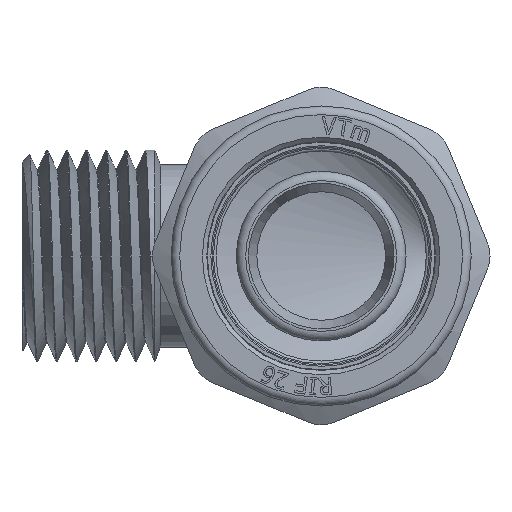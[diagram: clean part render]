
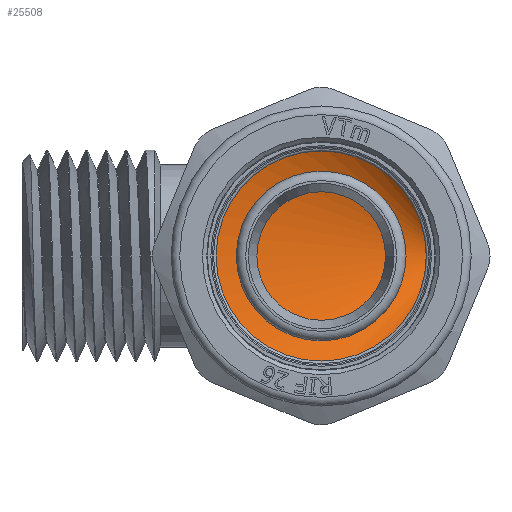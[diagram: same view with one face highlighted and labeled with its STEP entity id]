
A CAD part, left-side view. The second image highlights one B-rep face of the part: STEP entity #25508.
In plain terms, the highlighted cylindrical face has radius 15.25 mm (diameter 30.5 mm), a full revolution.
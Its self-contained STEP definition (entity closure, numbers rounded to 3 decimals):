
#1419=FACE_OUTER_BOUND('',#2860,.T.);
#2860=EDGE_LOOP('',(#17108,#17109,#17110,#17111,#17112,#17113,#17114,#17115));
#4420=CIRCLE('',#26972,15.25);
#4421=CIRCLE('',#26973,15.25);
#4422=CIRCLE('',#26974,15.25);
#5021=B_SPLINE_CURVE_WITH_KNOTS('',3,(#32531,#32532,#32533,#32534,#32535,
#32536,#32537,#32538,#32539,#32540,#32541,#32542,#32543,#32544,#32545,#32546,
#32547,#32548,#32549,#32550,#32551,#32552,#32553,#32554,#32555,#32556,#32557,
#32558,#32559,#32560,#32561,#32562,#32563,#32564),.UNSPECIFIED.,.F.,.F.,
(4,3,3,3,3,3,3,3,3,3,3,4),(1.209,1.479,1.972,
2.465,2.958,3.451,3.944,4.437,
4.93,5.424,5.917,6.096),
 .UNSPECIFIED.);
#5022=B_SPLINE_CURVE_WITH_KNOTS('',3,(#32567,#32568,#32569,#32570,#32571,
#32572,#32573,#32574,#32575,#32576),.UNSPECIFIED.,.F.,.F.,(4,3,3,4),(-1.271,
-0.973,-0.486,-0.148),.UNSPECIFIED.);
#6756=LINE('',#32529,#8492);
#6757=LINE('',#32578,#8493);
#8492=VECTOR('',#28247,15.25);
#8493=VECTOR('',#28250,15.25);
#10228=VERTEX_POINT('',#32527);
#10229=VERTEX_POINT('',#32528);
#10230=VERTEX_POINT('',#32530);
#10231=VERTEX_POINT('',#32565);
#10232=VERTEX_POINT('',#32577);
#10233=VERTEX_POINT('',#32579);
#13004=EDGE_CURVE('',#10228,#10229,#6756,.T.);
#13005=EDGE_CURVE('',#10230,#10228,#5021,.T.);
#13006=EDGE_CURVE('',#10231,#10230,#4420,.T.);
#13007=EDGE_CURVE('',#10229,#10231,#5022,.T.);
#13008=EDGE_CURVE('',#10229,#10232,#6757,.T.);
#13009=EDGE_CURVE('',#10233,#10232,#4421,.T.);
#13010=EDGE_CURVE('',#10232,#10233,#4422,.T.);
#17108=ORIENTED_EDGE('',*,*,#13004,.F.);
#17109=ORIENTED_EDGE('',*,*,#13005,.F.);
#17110=ORIENTED_EDGE('',*,*,#13006,.F.);
#17111=ORIENTED_EDGE('',*,*,#13007,.F.);
#17112=ORIENTED_EDGE('',*,*,#13008,.T.);
#17113=ORIENTED_EDGE('',*,*,#13009,.F.);
#17114=ORIENTED_EDGE('',*,*,#13010,.F.);
#17115=ORIENTED_EDGE('',*,*,#13008,.F.);
#25316=CYLINDRICAL_SURFACE('',#26971,15.25);
#25508=ADVANCED_FACE('',(#1419),#25316,.F.);
#26971=AXIS2_PLACEMENT_3D('',#32526,#28245,#28246);
#26972=AXIS2_PLACEMENT_3D('',#32566,#28248,#28249);
#26973=AXIS2_PLACEMENT_3D('',#32580,#28251,#28252);
#26974=AXIS2_PLACEMENT_3D('',#32581,#28253,#28254);
#28245=DIRECTION('center_axis',(1.,0.,0.));
#28246=DIRECTION('ref_axis',(0.,1.,0.));
#28247=DIRECTION('',(-1.,0.,0.));
#28248=DIRECTION('center_axis',(-1.,0.,0.));
#28249=DIRECTION('ref_axis',(0.,1.,0.));
#28250=DIRECTION('',(-1.,0.,0.));
#28251=DIRECTION('center_axis',(1.,0.,0.));
#28252=DIRECTION('ref_axis',(0.,0.,1.));
#28253=DIRECTION('center_axis',(1.,0.,0.));
#28254=DIRECTION('ref_axis',(0.,0.,1.));
#32526=CARTESIAN_POINT('Origin',(-31.82,0.,
0.));
#32527=CARTESIAN_POINT('',(-27.611,-15.25,0.));
#32528=CARTESIAN_POINT('',(-28.989,-15.25,0.));
#32529=CARTESIAN_POINT('',(-31.82,-15.25,0.));
#32530=CARTESIAN_POINT('',(-29.4,-2.658,-15.017));
#32531=CARTESIAN_POINT('Ctrl Pts',(-29.4,-2.658,-15.015));
#32532=CARTESIAN_POINT('Ctrl Pts',(-29.367,-1.303,
-15.255));
#32533=CARTESIAN_POINT('Ctrl Pts',(-29.334,0.084,
-15.313));
#32534=CARTESIAN_POINT('Ctrl Pts',(-29.301,1.453,-15.182));
#32535=CARTESIAN_POINT('Ctrl Pts',(-29.241,3.947,-14.943));
#32536=CARTESIAN_POINT('Ctrl Pts',(-29.181,6.382,-14.077));
#32537=CARTESIAN_POINT('Ctrl Pts',(-29.12,8.466,-12.686));
#32538=CARTESIAN_POINT('Ctrl Pts',(-29.06,10.55,-11.295));
#32539=CARTESIAN_POINT('Ctrl Pts',(-29.,12.284,-9.38));
#32540=CARTESIAN_POINT('Ctrl Pts',(-28.94,13.462,-7.168));
#32541=CARTESIAN_POINT('Ctrl Pts',(-28.88,14.639,-4.956));
#32542=CARTESIAN_POINT('Ctrl Pts',(-28.82,15.261,-2.448));
#32543=CARTESIAN_POINT('Ctrl Pts',(-28.759,15.251,0.057));
#32544=CARTESIAN_POINT('Ctrl Pts',(-28.699,15.242,2.563));
#32545=CARTESIAN_POINT('Ctrl Pts',(-28.639,14.602,5.066));
#32546=CARTESIAN_POINT('Ctrl Pts',(-28.579,13.407,7.269));
#32547=CARTESIAN_POINT('Ctrl Pts',(-28.519,12.213,9.472));
#32548=CARTESIAN_POINT('Ctrl Pts',(-28.459,10.465,11.374));
#32549=CARTESIAN_POINT('Ctrl Pts',(-28.399,8.37,12.749));
#32550=CARTESIAN_POINT('Ctrl Pts',(-28.338,6.275,14.124));
#32551=CARTESIAN_POINT('Ctrl Pts',(-28.278,3.835,14.972));
#32552=CARTESIAN_POINT('Ctrl Pts',(-28.218,1.339,15.192));
#32553=CARTESIAN_POINT('Ctrl Pts',(-28.158,-1.157,
15.412));
#32554=CARTESIAN_POINT('Ctrl Pts',(-28.098,-3.709,15.004));
#32555=CARTESIAN_POINT('Ctrl Pts',(-28.038,-6.012,
14.016));
#32556=CARTESIAN_POINT('Ctrl Pts',(-27.977,-8.314,
13.029));
#32557=CARTESIAN_POINT('Ctrl Pts',(-27.917,-10.369,11.462));
#32558=CARTESIAN_POINT('Ctrl Pts',(-27.857,-11.93,
9.502));
#32559=CARTESIAN_POINT('Ctrl Pts',(-27.797,-13.491,
7.542));
#32560=CARTESIAN_POINT('Ctrl Pts',(-27.737,-14.559,
5.189));
#32561=CARTESIAN_POINT('Ctrl Pts',(-27.677,-15.006,
2.723));
#32562=CARTESIAN_POINT('Ctrl Pts',(-27.655,-15.169,
1.826));
#32563=CARTESIAN_POINT('Ctrl Pts',(-27.633,-15.25,
0.913));
#32564=CARTESIAN_POINT('Ctrl Pts',(-27.611,-15.249,
0.));
#32565=CARTESIAN_POINT('',(-29.4,-6.611,13.743));
#32566=CARTESIAN_POINT('Origin',(-29.4,0.,0.));
#32567=CARTESIAN_POINT('Ctrl Pts',(-28.989,-15.249,
0.));
#32568=CARTESIAN_POINT('Ctrl Pts',(-29.025,-15.248,
1.515));
#32569=CARTESIAN_POINT('Ctrl Pts',(-29.062,-15.024,
3.03));
#32570=CARTESIAN_POINT('Ctrl Pts',(-29.098,-14.579,
4.478));
#32571=CARTESIAN_POINT('Ctrl Pts',(-29.158,-13.853,
6.841));
#32572=CARTESIAN_POINT('Ctrl Pts',(-29.217,-12.541,
9.025));
#32573=CARTESIAN_POINT('Ctrl Pts',(-29.276,-10.794,
10.774));
#32574=CARTESIAN_POINT('Ctrl Pts',(-29.318,-9.581,
11.989));
#32575=CARTESIAN_POINT('Ctrl Pts',(-29.359,-8.158,
12.995));
#32576=CARTESIAN_POINT('Ctrl Pts',(-29.4,-6.61,
13.741));
#32577=CARTESIAN_POINT('',(-37.245,-15.25,0.));
#32578=CARTESIAN_POINT('',(-31.82,-15.25,0.));
#32579=CARTESIAN_POINT('',(-37.245,15.25,0.));
#32580=CARTESIAN_POINT('Origin',(-37.245,0.,
0.));
#32581=CARTESIAN_POINT('Origin',(-37.245,0.,
0.));
